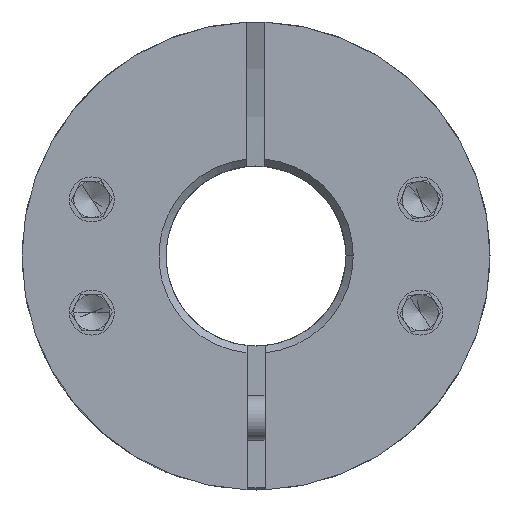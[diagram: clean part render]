
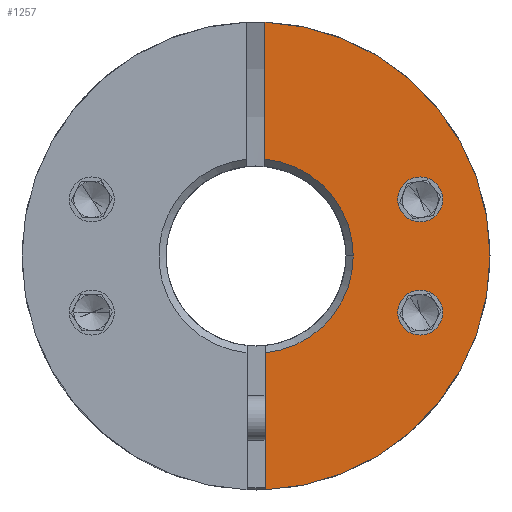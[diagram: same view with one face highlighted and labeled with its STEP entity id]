
A CAD part, front view. The second image highlights one B-rep face of the part: STEP entity #1257.
In plain terms, the highlighted planar face has unit normal (0, -1, 0).
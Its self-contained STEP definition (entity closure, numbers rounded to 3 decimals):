
#168 = FACE_BOUND ( 'NONE', #20842, .T. ) ;
#617 = CIRCLE ( 'NONE', #21887, 1.25 ) ;
#619 = DIRECTION ( 'NONE',  ( 1., 0., 0. ) ) ;
#675 = VECTOR ( 'NONE', #12052, 1000. ) ;
#1241 = DIRECTION ( 'NONE',  ( 1., 0., 0. ) ) ;
#1257 = ADVANCED_FACE ( 'NONE', ( #19116, #168, #3239 ), #15721, .T. ) ;
#1775 = EDGE_CURVE ( 'NONE', #14038, #20016, #12162, .T. ) ;
#2445 = CARTESIAN_POINT ( 'NONE',  ( 12.13, -26.289, -3.142 ) ) ;
#2512 = AXIS2_PLACEMENT_3D ( 'NONE', #9292, #5709, #4032 ) ;
#2617 = AXIS2_PLACEMENT_3D ( 'NONE', #18632, #9620, #619 ) ;
#2769 = AXIS2_PLACEMENT_3D ( 'NONE', #5033, #10582, #17477 ) ;
#2926 = EDGE_CURVE ( 'NONE', #7545, #22586, #6527, .T. ) ;
#3087 = EDGE_CURVE ( 'NONE', #15395, #19011, #617, .T. ) ;
#3239 = FACE_BOUND ( 'NONE', #17494, .T. ) ;
#4032 = DIRECTION ( 'NONE',  ( 1., 0., 0. ) ) ;
#4290 = DIRECTION ( 'NONE',  ( 1., 0., 0. ) ) ;
#4343 = EDGE_CURVE ( 'NONE', #10977, #17818, #6575, .T. ) ;
#4345 = AXIS2_PLACEMENT_3D ( 'NONE', #19491, #8852, #21290 ) ;
#4406 = CARTESIAN_POINT ( 'NONE',  ( 10.88, -26.289, 3.142 ) ) ;
#4736 = DIRECTION ( 'NONE',  ( 0., 0., -1. ) ) ;
#4999 = CARTESIAN_POINT ( 'NONE',  ( 1.755, -26.289, 0. ) ) ;
#5033 = CARTESIAN_POINT ( 'NONE',  ( 1.755, -26.289, 0. ) ) ;
#5226 = CARTESIAN_POINT ( 'NONE',  ( 2.255, -26.289, -12.99 ) ) ;
#5709 = DIRECTION ( 'NONE',  ( 0., 1., 0. ) ) ;
#5877 = ORIENTED_EDGE ( 'NONE', *, *, #4343, .T. ) ;
#6121 = CARTESIAN_POINT ( 'NONE',  ( 9.63, -26.289, -3.142 ) ) ;
#6437 = DIRECTION ( 'NONE',  ( 1., 0., 0. ) ) ;
#6527 = CIRCLE ( 'NONE', #22326, 1.25 ) ;
#6575 = CIRCLE ( 'NONE', #4345, 13. ) ;
#6614 = CARTESIAN_POINT ( 'NONE',  ( 2.255, -26.289, -5.377 ) ) ;
#6633 = CIRCLE ( 'NONE', #16400, 1.25 ) ;
#6965 = VECTOR ( 'NONE', #4736, 1000. ) ;
#7281 = CIRCLE ( 'NONE', #7590, 1.25 ) ;
#7545 = VERTEX_POINT ( 'NONE', #2445 ) ;
#7590 = AXIS2_PLACEMENT_3D ( 'NONE', #11479, #7602, #4290 ) ;
#7602 = DIRECTION ( 'NONE',  ( 0., 1., 0. ) ) ;
#8346 = VERTEX_POINT ( 'NONE', #15302 ) ;
#8852 = DIRECTION ( 'NONE',  ( 0., -1., 0. ) ) ;
#8974 = DIRECTION ( 'NONE',  ( 0., 1., 0. ) ) ;
#9202 = CARTESIAN_POINT ( 'NONE',  ( 10.88, -26.289, -3.142 ) ) ;
#9292 = CARTESIAN_POINT ( 'NONE',  ( 1.755, -26.289, 0. ) ) ;
#9574 = EDGE_CURVE ( 'NONE', #19011, #15395, #6633, .T. ) ;
#9620 = DIRECTION ( 'NONE',  ( 0., -1., 0. ) ) ;
#9732 = CARTESIAN_POINT ( 'NONE',  ( 10.88, -26.289, 3.142 ) ) ;
#10298 = CIRCLE ( 'NONE', #2512, 5.4 ) ;
#10582 = DIRECTION ( 'NONE',  ( 0., -1., 0. ) ) ;
#10929 = CIRCLE ( 'NONE', #2617, 13. ) ;
#10977 = VERTEX_POINT ( 'NONE', #5226 ) ;
#11479 = CARTESIAN_POINT ( 'NONE',  ( 10.88, -26.289, -3.142 ) ) ;
#12052 = DIRECTION ( 'NONE',  ( 0., 0., -1. ) ) ;
#12162 = CIRCLE ( 'NONE', #20228, 5.4 ) ;
#12357 = CARTESIAN_POINT ( 'NONE',  ( 14.755, -26.289, 0. ) ) ;
#12678 = CARTESIAN_POINT ( 'NONE',  ( 9.63, -26.289, 3.142 ) ) ;
#13061 = LINE ( 'NONE', #20855, #6965 ) ;
#13097 = VERTEX_POINT ( 'NONE', #18814 ) ;
#13366 = DIRECTION ( 'NONE',  ( 1., 0., 0. ) ) ;
#14038 = VERTEX_POINT ( 'NONE', #16346 ) ;
#14632 = ORIENTED_EDGE ( 'NONE', *, *, #18695, .T. ) ;
#14712 = ORIENTED_EDGE ( 'NONE', *, *, #1775, .T. ) ;
#15020 = ORIENTED_EDGE ( 'NONE', *, *, #18507, .T. ) ;
#15194 = CARTESIAN_POINT ( 'NONE',  ( 12.13, -26.289, 3.142 ) ) ;
#15302 = CARTESIAN_POINT ( 'NONE',  ( 2.255, -26.289, 12.99 ) ) ;
#15395 = VERTEX_POINT ( 'NONE', #15194 ) ;
#15721 = PLANE ( 'NONE',  #2769 ) ;
#16130 = EDGE_CURVE ( 'NONE', #8346, #13097, #17984, .T. ) ;
#16346 = CARTESIAN_POINT ( 'NONE',  ( 7.155, -26.289, 0. ) ) ;
#16400 = AXIS2_PLACEMENT_3D ( 'NONE', #9732, #22133, #13366 ) ;
#16880 = DIRECTION ( 'NONE',  ( 0., 1., 0. ) ) ;
#17261 = CARTESIAN_POINT ( 'NONE',  ( 2.255, -26.289, 5. ) ) ;
#17477 = DIRECTION ( 'NONE',  ( 1., 0., 0. ) ) ;
#17494 = EDGE_LOOP ( 'NONE', ( #19443, #22341 ) ) ;
#17807 = ORIENTED_EDGE ( 'NONE', *, *, #3087, .T. ) ;
#17818 = VERTEX_POINT ( 'NONE', #12357 ) ;
#17984 = LINE ( 'NONE', #17261, #675 ) ;
#18010 = EDGE_CURVE ( 'NONE', #22586, #7545, #7281, .T. ) ;
#18507 = EDGE_CURVE ( 'NONE', #13097, #14038, #10298, .T. ) ;
#18571 = ORIENTED_EDGE ( 'NONE', *, *, #16130, .T. ) ;
#18632 = CARTESIAN_POINT ( 'NONE',  ( 1.755, -26.289, 0. ) ) ;
#18695 = EDGE_CURVE ( 'NONE', #20016, #10977, #13061, .T. ) ;
#18731 = EDGE_LOOP ( 'NONE', ( #18571, #15020, #14712, #14632, #5877, #19387 ) ) ;
#18814 = CARTESIAN_POINT ( 'NONE',  ( 2.255, -26.289, 5.377 ) ) ;
#19011 = VERTEX_POINT ( 'NONE', #12678 ) ;
#19116 = FACE_OUTER_BOUND ( 'NONE', #18731, .T. ) ;
#19236 = DIRECTION ( 'NONE',  ( 0., 1., 0. ) ) ;
#19306 = ORIENTED_EDGE ( 'NONE', *, *, #9574, .T. ) ;
#19387 = ORIENTED_EDGE ( 'NONE', *, *, #23089, .T. ) ;
#19443 = ORIENTED_EDGE ( 'NONE', *, *, #18010, .T. ) ;
#19491 = CARTESIAN_POINT ( 'NONE',  ( 1.755, -26.289, 0. ) ) ;
#20016 = VERTEX_POINT ( 'NONE', #6614 ) ;
#20228 = AXIS2_PLACEMENT_3D ( 'NONE', #4999, #19236, #1241 ) ;
#20842 = EDGE_LOOP ( 'NONE', ( #19306, #17807 ) ) ;
#20855 = CARTESIAN_POINT ( 'NONE',  ( 2.255, -26.289, 5. ) ) ;
#21290 = DIRECTION ( 'NONE',  ( 1., 0., 0. ) ) ;
#21626 = DIRECTION ( 'NONE',  ( 1., 0., 0. ) ) ;
#21887 = AXIS2_PLACEMENT_3D ( 'NONE', #4406, #16880, #6437 ) ;
#22133 = DIRECTION ( 'NONE',  ( 0., 1., 0. ) ) ;
#22326 = AXIS2_PLACEMENT_3D ( 'NONE', #9202, #8974, #21626 ) ;
#22341 = ORIENTED_EDGE ( 'NONE', *, *, #2926, .T. ) ;
#22586 = VERTEX_POINT ( 'NONE', #6121 ) ;
#23089 = EDGE_CURVE ( 'NONE', #17818, #8346, #10929, .T. ) ;
